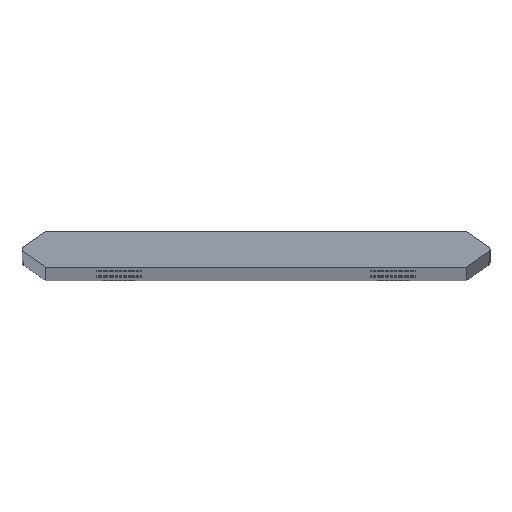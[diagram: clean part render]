
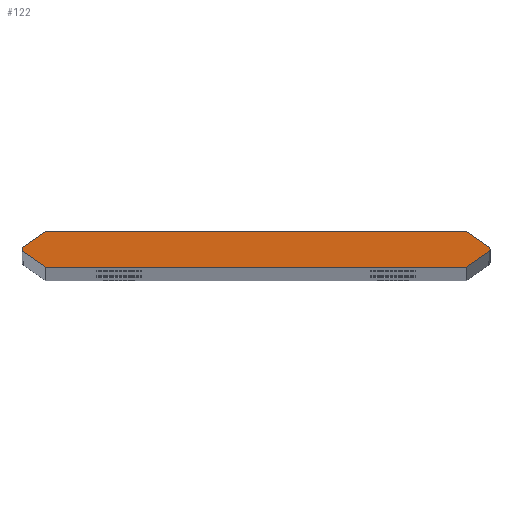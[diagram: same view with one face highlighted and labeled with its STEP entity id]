
A CAD part, top view. The second image highlights one B-rep face of the part: STEP entity #122.
In plain terms, the highlighted planar face has unit normal (0, 0, 1).
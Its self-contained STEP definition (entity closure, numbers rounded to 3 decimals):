
#122=ADVANCED_FACE('',(#226),#227,.T.);
#226=FACE_OUTER_BOUND('',#382,.T.);
#227=PLANE('',#383);
#382=EDGE_LOOP('',(#773,#774,#775,#776,#777,#778,#779,#780,#781,#782));
#383=AXIS2_PLACEMENT_3D('',#783,#784,#785);
#773=ORIENTED_EDGE('',*,*,#941,.T.);
#774=ORIENTED_EDGE('',*,*,#1078,.T.);
#775=ORIENTED_EDGE('',*,*,#1079,.F.);
#776=ORIENTED_EDGE('',*,*,#1080,.F.);
#777=ORIENTED_EDGE('',*,*,#1081,.F.);
#778=ORIENTED_EDGE('',*,*,#937,.T.);
#779=ORIENTED_EDGE('',*,*,#1082,.T.);
#780=ORIENTED_EDGE('',*,*,#1083,.F.);
#781=ORIENTED_EDGE('',*,*,#1084,.F.);
#782=ORIENTED_EDGE('',*,*,#1085,.F.);
#783=CARTESIAN_POINT('',(0.0,0.,1976.0));
#784=DIRECTION('',(0.0,0.0,1.0));
#785=DIRECTION('',(1.0,0.0,0.0));
#937=EDGE_CURVE('',#1101,#1098,#1102,.T.);
#941=EDGE_CURVE('',#1109,#1106,#1110,.T.);
#1078=EDGE_CURVE('',#1106,#1336,#1338,.T.);
#1079=EDGE_CURVE('',#1339,#1336,#1340,.T.);
#1080=EDGE_CURVE('',#1341,#1339,#1342,.T.);
#1081=EDGE_CURVE('',#1101,#1341,#1343,.T.);
#1082=EDGE_CURVE('',#1098,#1344,#1345,.T.);
#1083=EDGE_CURVE('',#1346,#1344,#1347,.T.);
#1084=EDGE_CURVE('',#1348,#1346,#1349,.T.);
#1085=EDGE_CURVE('',#1109,#1348,#1350,.T.);
#1098=VERTEX_POINT('',#1368);
#1101=VERTEX_POINT('',#1372);
#1102=CIRCLE('',#1373,0.76);
#1106=VERTEX_POINT('',#1378);
#1109=VERTEX_POINT('',#1382);
#1110=CIRCLE('',#1383,0.76);
#1336=VERTEX_POINT('',#1654);
#1338=CIRCLE('',#1657,0.76);
#1339=VERTEX_POINT('',#1658);
#1340=LINE('',#1659,#1660);
#1341=VERTEX_POINT('',#1661);
#1342=LINE('',#1662,#1663);
#1343=LINE('',#1664,#1665);
#1344=VERTEX_POINT('',#1666);
#1345=CIRCLE('',#1667,0.76);
#1346=VERTEX_POINT('',#1668);
#1347=LINE('',#1669,#1670);
#1348=VERTEX_POINT('',#1671);
#1349=LINE('',#1672,#1673);
#1350=LINE('',#1674,#1675);
#1368=CARTESIAN_POINT('',(59.84,0.,1976.0));
#1372=CARTESIAN_POINT('',(59.519,-0.62,1976.0));
#1373=AXIS2_PLACEMENT_3D('',#1705,#1706,#1707);
#1378=CARTESIAN_POINT('',(-59.84,0.,1976.0));
#1382=CARTESIAN_POINT('',(-59.519,0.62,1976.0));
#1383=AXIS2_PLACEMENT_3D('',#1713,#1714,#1715);
#1654=CARTESIAN_POINT('',(-59.519,-0.62,1976.0));
#1657=AXIS2_PLACEMENT_3D('',#2032,#2033,#2034);
#1658=CARTESIAN_POINT('',(-53.893,-4.56,1976.0));
#1659=CARTESIAN_POINT('',(-60.405,0.,1976.0));
#1660=VECTOR('',#2035,1.0);
#1661=CARTESIAN_POINT('',(53.893,-4.56,1976.0));
#1662=CARTESIAN_POINT('',(53.893,-4.56,1976.0));
#1663=VECTOR('',#2036,1.0);
#1664=CARTESIAN_POINT('',(60.405,0.0,1976.0));
#1665=VECTOR('',#2037,1.0);
#1666=CARTESIAN_POINT('',(59.519,0.62,1976.0));
#1667=AXIS2_PLACEMENT_3D('',#2038,#2039,#2040);
#1668=CARTESIAN_POINT('',(53.893,4.56,1976.0));
#1669=CARTESIAN_POINT('',(60.405,0.0,1976.0));
#1670=VECTOR('',#2041,1.0);
#1671=CARTESIAN_POINT('',(-53.893,4.56,1976.0));
#1672=CARTESIAN_POINT('',(-53.893,4.56,1976.0));
#1673=VECTOR('',#2042,1.0);
#1674=CARTESIAN_POINT('',(-60.405,0.,1976.0));
#1675=VECTOR('',#2043,1.0);
#1705=CARTESIAN_POINT('',(59.08,0.0,1976.0));
#1706=DIRECTION('',(0.0,0.0,1.0));
#1707=DIRECTION('',(1.0,0.0,0.0));
#1713=CARTESIAN_POINT('',(-59.08,0.,1976.0));
#1714=DIRECTION('',(0.0,0.0,1.0));
#1715=DIRECTION('',(-1.0,0.,0.0));
#2032=CARTESIAN_POINT('',(-59.08,0.,1976.0));
#2033=DIRECTION('',(0.0,0.0,1.0));
#2034=DIRECTION('',(-1.0,0.,0.0));
#2035=DIRECTION('',(-0.819,0.574,0.0));
#2036=DIRECTION('',(-1.0,0.0,0.0));
#2037=DIRECTION('',(-0.819,-0.574,0.0));
#2038=CARTESIAN_POINT('',(59.08,0.0,1976.0));
#2039=DIRECTION('',(0.0,0.0,1.0));
#2040=DIRECTION('',(1.0,0.0,0.0));
#2041=DIRECTION('',(0.819,-0.574,0.0));
#2042=DIRECTION('',(1.0,0.,0.0));
#2043=DIRECTION('',(0.819,0.574,0.0));
